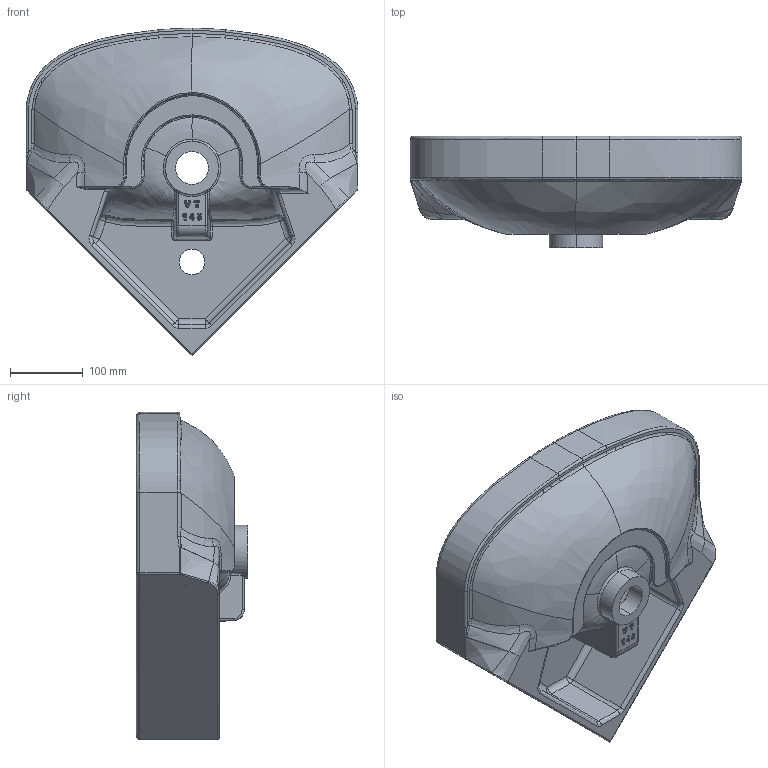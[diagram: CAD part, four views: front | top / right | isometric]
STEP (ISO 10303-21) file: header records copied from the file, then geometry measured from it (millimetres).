
FILE_DESCRIPTION (( 'STEP AP203' ), '1' );
FILE_NAME ('vt145.STEP', '2022-04-18T06:52:00', ( '' ), ( '' ), 'SwSTEP 2.0', 'SolidWorks 2021', '' );
FILE_SCHEMA (( 'CONFIG_CONTROL_DESIGN' ));
Products named in the file (1): vt145
Bounding box: 455 x 153 x 448.92 mm (x, y, z)
Volume: 7262427.7 mm3; surface area: 565200.5 mm2
Topology: 4 solids, 6 shells, 586 faces, 1389 edges, 800 vertices
Faces by surface type: bspline 230, cylinder 153, torus 100, plane 79, sphere 22, cone 2
Entity records: 59242 total; most frequent: CARTESIAN_POINT 47406, ORIENTED_EDGE 2730, DIRECTION 2104, EDGE_CURVE 1365, AXIS2_PLACEMENT_3D 893, VERTEX_POINT 799, EDGE_LOOP 600, FACE_OUTER_BOUND 586
